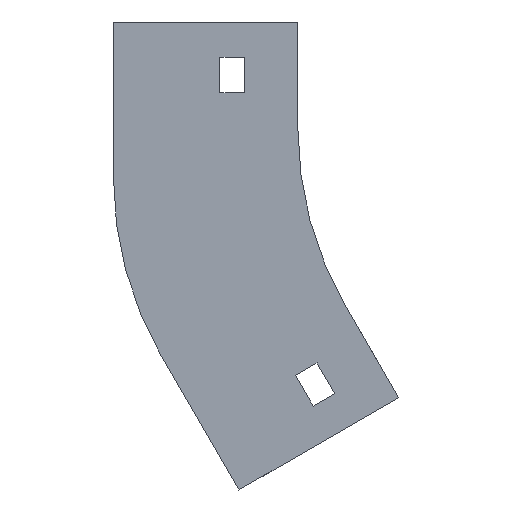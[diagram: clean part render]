
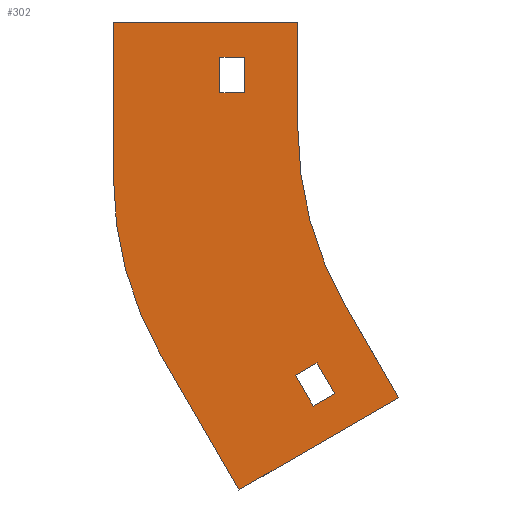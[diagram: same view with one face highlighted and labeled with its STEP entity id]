
A CAD part, left-side view. The second image highlights one B-rep face of the part: STEP entity #302.
In plain terms, the highlighted planar face has unit normal (-1, 0, 0).
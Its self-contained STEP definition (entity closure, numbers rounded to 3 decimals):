
#6 = CARTESIAN_POINT ( 'NONE',  ( -39.5, 22., -10. ) ) ;
#13 = CARTESIAN_POINT ( 'NONE',  ( -39.5, 0.655, -99.66 ) ) ;
#27 = LINE ( 'NONE', #684, #321 ) ;
#44 = DIRECTION ( 'NONE',  ( 0., 0., 1. ) ) ;
#53 = CARTESIAN_POINT ( 'NONE',  ( -39.5, -28.397, -105.981 ) ) ;
#62 = LINE ( 'NONE', #497, #1373 ) ;
#63 = DIRECTION ( 'NONE',  ( 0., 0.5, 0.866 ) ) ;
#66 = DIRECTION ( 'NONE',  ( 0., -0.5, -0.866 ) ) ;
#73 = VECTOR ( 'NONE', #66, 1000. ) ;
#80 = CARTESIAN_POINT ( 'NONE',  ( -39.5, -13.397, -80. ) ) ;
#110 = EDGE_CURVE ( 'NONE', #733, #1327, #837, .T. ) ;
#134 = EDGE_CURVE ( 'NONE', #784, #498, #1288, .T. ) ;
#145 = ORIENTED_EDGE ( 'NONE', *, *, #893, .F. ) ;
#150 = VECTOR ( 'NONE', #189, 1000. ) ;
#157 = LINE ( 'NONE', #1126, #1252 ) ;
#170 = EDGE_CURVE ( 'NONE', #1135, #611, #320, .T. ) ;
#189 = DIRECTION ( 'NONE',  ( 0., 0.866, -0.5 ) ) ;
#204 = CARTESIAN_POINT ( 'NONE',  ( -39.5, 22., -20. ) ) ;
#210 = ORIENTED_EDGE ( 'NONE', *, *, #170, .T. ) ;
#225 = ORIENTED_EDGE ( 'NONE', *, *, #294, .F. ) ;
#239 = EDGE_CURVE ( 'NONE', #351, #1155, #364, .T. ) ;
#265 = ORIENTED_EDGE ( 'NONE', *, *, #822, .F. ) ;
#270 = VECTOR ( 'NONE', #551, 1000. ) ;
#282 = CARTESIAN_POINT ( 'NONE',  ( -39.5, 15., -20. ) ) ;
#283 = AXIS2_PLACEMENT_3D ( 'NONE', #1111, #1014, #916 ) ;
#289 = CARTESIAN_POINT ( 'NONE',  ( -39.5, 22., -20. ) ) ;
#294 = EDGE_CURVE ( 'NONE', #668, #1044, #62, .T. ) ;
#302 = ADVANCED_FACE ( 'NONE', ( #470, #900, #811 ), #1251, .T. ) ;
#318 = ORIENTED_EDGE ( 'NONE', *, *, #1381, .F. ) ;
#320 = LINE ( 'NONE', #6, #371 ) ;
#321 = VECTOR ( 'NONE', #451, 1000. ) ;
#351 = VERTEX_POINT ( 'NONE', #379 ) ;
#364 = LINE ( 'NONE', #801, #1085 ) ;
#371 = VECTOR ( 'NONE', #773, 1000. ) ;
#375 = VERTEX_POINT ( 'NONE', #289 ) ;
#378 = CARTESIAN_POINT ( 'NONE',  ( -39.5, -4.345, -108.321 ) ) ;
#379 = CARTESIAN_POINT ( 'NONE',  ( -39.5, -4.345, -108.321 ) ) ;
#391 = CARTESIAN_POINT ( 'NONE',  ( -39.5, 0., -30. ) ) ;
#404 = DIRECTION ( 'NONE',  ( 0., -0.5, -0.866 ) ) ;
#420 = EDGE_CURVE ( 'NONE', #1161, #1339, #937, .T. ) ;
#449 = VECTOR ( 'NONE', #624, 1000. ) ;
#450 = EDGE_LOOP ( 'NONE', ( #210, #581, #683, #759 ) ) ;
#451 = DIRECTION ( 'NONE',  ( 0., 0., 1. ) ) ;
#456 = VERTEX_POINT ( 'NONE', #391 ) ;
#466 = EDGE_CURVE ( 'NONE', #1339, #733, #1396, .T. ) ;
#470 = FACE_BOUND ( 'NONE', #450, .T. ) ;
#476 = EDGE_CURVE ( 'NONE', #1044, #456, #1050, .T. ) ;
#497 = CARTESIAN_POINT ( 'NONE',  ( -39.5, 52., 0. ) ) ;
#498 = VERTEX_POINT ( 'NONE', #13 ) ;
#507 = DIRECTION ( 'NONE',  ( 0., 0., 1. ) ) ;
#509 = CARTESIAN_POINT ( 'NONE',  ( -39.5, 0., 0. ) ) ;
#511 = EDGE_LOOP ( 'NONE', ( #225, #1262, #318, #1233, #1311, #1098, #145, #657 ) ) ;
#538 = CARTESIAN_POINT ( 'NONE',  ( -39.5, 52., 0. ) ) ;
#540 = EDGE_CURVE ( 'NONE', #611, #1000, #559, .T. ) ;
#551 = DIRECTION ( 'NONE',  ( 0., 0., -1. ) ) ;
#559 = LINE ( 'NONE', #994, #270 ) ;
#581 = ORIENTED_EDGE ( 'NONE', *, *, #540, .T. ) ;
#611 = VERTEX_POINT ( 'NONE', #1213 ) ;
#621 = VECTOR ( 'NONE', #63, 1000. ) ;
#624 = DIRECTION ( 'NONE',  ( 0., 0.866, -0.5 ) ) ;
#634 = DIRECTION ( 'NONE',  ( 0., 1., 0. ) ) ;
#657 = ORIENTED_EDGE ( 'NONE', *, *, #476, .F. ) ;
#668 = VERTEX_POINT ( 'NONE', #538 ) ;
#683 = ORIENTED_EDGE ( 'NONE', *, *, #1001, .T. ) ;
#684 = CARTESIAN_POINT ( 'NONE',  ( -39.5, 22., -10. ) ) ;
#688 = DIRECTION ( 'NONE',  ( 0., -0.866, 0.5 ) ) ;
#694 = AXIS2_PLACEMENT_3D ( 'NONE', #825, #914, #1245 ) ;
#706 = CARTESIAN_POINT ( 'NONE',  ( -39.5, -13.397, -80. ) ) ;
#719 = EDGE_LOOP ( 'NONE', ( #887, #1200, #265, #841 ) ) ;
#720 = CARTESIAN_POINT ( 'NONE',  ( -39.5, -100., -30. ) ) ;
#722 = EDGE_CURVE ( 'NONE', #1308, #668, #157, .T. ) ;
#727 = DIRECTION ( 'NONE',  ( -1., 0., 0. ) ) ;
#733 = VERTEX_POINT ( 'NONE', #1344 ) ;
#754 = VECTOR ( 'NONE', #634, 1000. ) ;
#759 = ORIENTED_EDGE ( 'NONE', *, *, #1166, .T. ) ;
#772 = CIRCLE ( 'NONE', #858, 100. ) ;
#773 = DIRECTION ( 'NONE',  ( 0., -1., 0. ) ) ;
#784 = VERTEX_POINT ( 'NONE', #1026 ) ;
#801 = CARTESIAN_POINT ( 'NONE',  ( -39.5, -4.345, -108.321 ) ) ;
#811 = FACE_BOUND ( 'NONE', #719, .T. ) ;
#814 = VECTOR ( 'NONE', #1065, 1000. ) ;
#822 = EDGE_CURVE ( 'NONE', #498, #351, #1355, .T. ) ;
#825 = CARTESIAN_POINT ( 'NONE',  ( -39.5, -100., -30. ) ) ;
#836 = DIRECTION ( 'NONE',  ( 0., 0., -1. ) ) ;
#837 = LINE ( 'NONE', #1271, #814 ) ;
#841 = ORIENTED_EDGE ( 'NONE', *, *, #134, .F. ) ;
#858 = AXIS2_PLACEMENT_3D ( 'NONE', #720, #727, #507 ) ;
#860 = CARTESIAN_POINT ( 'NONE',  ( -39.5, 0., 0. ) ) ;
#869 = CIRCLE ( 'NONE', #283, 100. ) ;
#887 = ORIENTED_EDGE ( 'NONE', *, *, #1374, .F. ) ;
#892 = VECTOR ( 'NONE', #404, 1000. ) ;
#893 = EDGE_CURVE ( 'NONE', #456, #1161, #772, .T. ) ;
#900 = FACE_OUTER_BOUND ( 'NONE', #511, .T. ) ;
#914 = DIRECTION ( 'NONE',  ( -1., 0., 0. ) ) ;
#916 = DIRECTION ( 'NONE',  ( 0., 0., -1. ) ) ;
#937 = LINE ( 'NONE', #80, #892 ) ;
#994 = CARTESIAN_POINT ( 'NONE',  ( -39.5, 15., -10. ) ) ;
#1000 = VERTEX_POINT ( 'NONE', #282 ) ;
#1001 = EDGE_CURVE ( 'NONE', #1000, #375, #1179, .T. ) ;
#1014 = DIRECTION ( 'NONE',  ( 1., 0., 0. ) ) ;
#1026 = CARTESIAN_POINT ( 'NONE',  ( -39.5, -5.407, -96.16 ) ) ;
#1038 = CARTESIAN_POINT ( 'NONE',  ( -39.5, -10.407, -104.821 ) ) ;
#1044 = VERTEX_POINT ( 'NONE', #860 ) ;
#1050 = LINE ( 'NONE', #509, #1338 ) ;
#1065 = DIRECTION ( 'NONE',  ( 0., 0.5, 0.866 ) ) ;
#1085 = VECTOR ( 'NONE', #688, 1000. ) ;
#1098 = ORIENTED_EDGE ( 'NONE', *, *, #420, .F. ) ;
#1111 = CARTESIAN_POINT ( 'NONE',  ( -39.5, -48., -43.933 ) ) ;
#1126 = CARTESIAN_POINT ( 'NONE',  ( -39.5, 52., -43.933 ) ) ;
#1135 = VERTEX_POINT ( 'NONE', #1217 ) ;
#1146 = LINE ( 'NONE', #1038, #621 ) ;
#1148 = CARTESIAN_POINT ( 'NONE',  ( -39.5, -10.407, -104.821 ) ) ;
#1155 = VERTEX_POINT ( 'NONE', #1148 ) ;
#1161 = VERTEX_POINT ( 'NONE', #706 ) ;
#1166 = EDGE_CURVE ( 'NONE', #375, #1135, #27, .T. ) ;
#1179 = LINE ( 'NONE', #204, #754 ) ;
#1183 = CARTESIAN_POINT ( 'NONE',  ( -39.5, -28.397, -105.981 ) ) ;
#1200 = ORIENTED_EDGE ( 'NONE', *, *, #239, .F. ) ;
#1213 = CARTESIAN_POINT ( 'NONE',  ( -39.5, 15., -10. ) ) ;
#1217 = CARTESIAN_POINT ( 'NONE',  ( -39.5, 22., -10. ) ) ;
#1221 = CARTESIAN_POINT ( 'NONE',  ( -39.5, 38.603, -93.933 ) ) ;
#1233 = ORIENTED_EDGE ( 'NONE', *, *, #110, .F. ) ;
#1245 = DIRECTION ( 'NONE',  ( 0., 0., 1. ) ) ;
#1246 = CARTESIAN_POINT ( 'NONE',  ( -39.5, 52., -43.933 ) ) ;
#1251 = PLANE ( 'NONE',  #694 ) ;
#1252 = VECTOR ( 'NONE', #44, 1000. ) ;
#1262 = ORIENTED_EDGE ( 'NONE', *, *, #722, .F. ) ;
#1271 = CARTESIAN_POINT ( 'NONE',  ( -39.5, 16.636, -131.981 ) ) ;
#1288 = LINE ( 'NONE', #1378, #150 ) ;
#1308 = VERTEX_POINT ( 'NONE', #1246 ) ;
#1311 = ORIENTED_EDGE ( 'NONE', *, *, #466, .F. ) ;
#1327 = VERTEX_POINT ( 'NONE', #1221 ) ;
#1338 = VECTOR ( 'NONE', #836, 1000. ) ;
#1339 = VERTEX_POINT ( 'NONE', #53 ) ;
#1344 = CARTESIAN_POINT ( 'NONE',  ( -39.5, 16.636, -131.981 ) ) ;
#1355 = LINE ( 'NONE', #378, #73 ) ;
#1356 = DIRECTION ( 'NONE',  ( 0., -1., 0. ) ) ;
#1373 = VECTOR ( 'NONE', #1356, 1000. ) ;
#1374 = EDGE_CURVE ( 'NONE', #1155, #784, #1146, .T. ) ;
#1378 = CARTESIAN_POINT ( 'NONE',  ( -39.5, 0.655, -99.66 ) ) ;
#1381 = EDGE_CURVE ( 'NONE', #1327, #1308, #869, .T. ) ;
#1396 = LINE ( 'NONE', #1183, #449 ) ;
